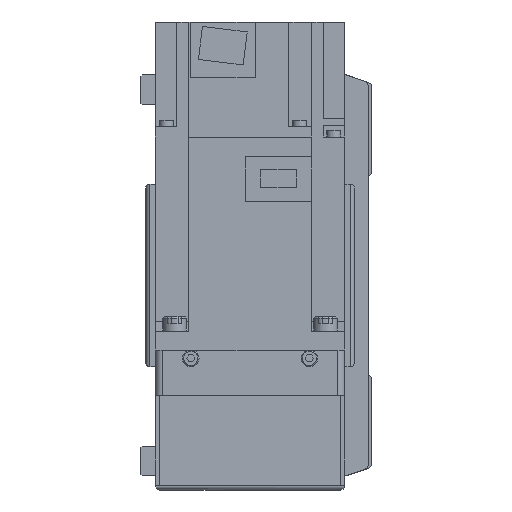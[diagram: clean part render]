
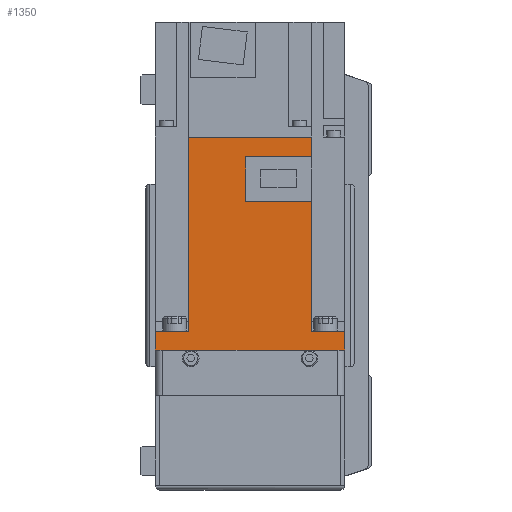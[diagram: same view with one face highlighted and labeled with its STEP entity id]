
A CAD part, left-side view. The second image highlights one B-rep face of the part: STEP entity #1350.
In plain terms, the highlighted planar face has unit normal (-1, 0, 0) as drawn and (1, 0, 0) by its records, which use the part's own axes.
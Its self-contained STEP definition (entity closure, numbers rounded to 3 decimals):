
#1350 = ADVANCED_FACE( '', ( #3489 ), #3490, .F. );
#3489 = FACE_OUTER_BOUND( '', #6673, .T. );
#3490 = PLANE( '', #6674 );
#6673 = EDGE_LOOP( '', ( #10469, #10470, #10471, #10472, #10473, #10474, #10475, #10476, #10477, #10478, #10479, #10480 ) );
#6674 = AXIS2_PLACEMENT_3D( '', #10481, #10482, #10483 );
#10469 = ORIENTED_EDGE( '', *, *, #18860, .F. );
#10470 = ORIENTED_EDGE( '', *, *, #18861, .F. );
#10471 = ORIENTED_EDGE( '', *, *, #18862, .F. );
#10472 = ORIENTED_EDGE( '', *, *, #18863, .T. );
#10473 = ORIENTED_EDGE( '', *, *, #18864, .F. );
#10474 = ORIENTED_EDGE( '', *, *, #18865, .T. );
#10475 = ORIENTED_EDGE( '', *, *, #18866, .T. );
#10476 = ORIENTED_EDGE( '', *, *, #18867, .F. );
#10477 = ORIENTED_EDGE( '', *, *, #18868, .F. );
#10478 = ORIENTED_EDGE( '', *, *, #18869, .F. );
#10479 = ORIENTED_EDGE( '', *, *, #18870, .F. );
#10480 = ORIENTED_EDGE( '', *, *, #18871, .F. );
#10481 = CARTESIAN_POINT( '', ( 40., 89.8, 40. ) );
#10482 = DIRECTION( '', ( -1., 0., 0. ) );
#10483 = DIRECTION( '', ( 0., 0., 1. ) );
#18860 = EDGE_CURVE( '', #22739, #22740, #22741, .T. );
#18861 = EDGE_CURVE( '', #22742, #22739, #22743, .T. );
#18862 = EDGE_CURVE( '', #22744, #22742, #22745, .T. );
#18863 = EDGE_CURVE( '', #22744, #22746, #22747, .T. );
#18864 = EDGE_CURVE( '', #22748, #22746, #22749, .T. );
#18865 = EDGE_CURVE( '', #22748, #22750, #22751, .T. );
#18866 = EDGE_CURVE( '', #22750, #22752, #22753, .T. );
#18867 = EDGE_CURVE( '', #22754, #22752, #22755, .T. );
#18868 = EDGE_CURVE( '', #22756, #22754, #22757, .T. );
#18869 = EDGE_CURVE( '', #22758, #22756, #22759, .T. );
#18870 = EDGE_CURVE( '', #22760, #22758, #22761, .T. );
#18871 = EDGE_CURVE( '', #22740, #22760, #22762, .T. );
#22739 = VERTEX_POINT( '', #28250 );
#22740 = VERTEX_POINT( '', #28251 );
#22741 = LINE( '', #28252, #28253 );
#22742 = VERTEX_POINT( '', #28254 );
#22743 = LINE( '', #28255, #28256 );
#22744 = VERTEX_POINT( '', #28257 );
#22745 = LINE( '', #28258, #28259 );
#22746 = VERTEX_POINT( '', #28260 );
#22747 = LINE( '', #28261, #28262 );
#22748 = VERTEX_POINT( '', #28263 );
#22749 = LINE( '', #28264, #28265 );
#22750 = VERTEX_POINT( '', #28266 );
#22751 = LINE( '', #28267, #28268 );
#22752 = VERTEX_POINT( '', #28269 );
#22753 = LINE( '', #28270, #28271 );
#22754 = VERTEX_POINT( '', #28272 );
#22755 = LINE( '', #28273, #28274 );
#22756 = VERTEX_POINT( '', #28275 );
#22757 = LINE( '', #28276, #28277 );
#22758 = VERTEX_POINT( '', #28278 );
#22759 = LINE( '', #28279, #28280 );
#22760 = VERTEX_POINT( '', #28281 );
#22761 = LINE( '', #28282, #28283 );
#22762 = LINE( '', #28284, #28285 );
#28250 = CARTESIAN_POINT( '', ( 40., 81.4, -25.95 ) );
#28251 = CARTESIAN_POINT( '', ( 40., 81.4, 1.8 ) );
#28252 = CARTESIAN_POINT( '', ( 40., 81.4, -26. ) );
#28253 = VECTOR( '', #34808, 1000. );
#28254 = CARTESIAN_POINT( '', ( 40., 89.8, -25.95 ) );
#28255 = CARTESIAN_POINT( '', ( 40., 158., -25.95 ) );
#28256 = VECTOR( '', #34809, 1000. );
#28257 = CARTESIAN_POINT( '', ( 40., 89.8, 25.95 ) );
#28258 = CARTESIAN_POINT( '', ( 40., 89.8, 40. ) );
#28259 = VECTOR( '', #34810, 1000. );
#28260 = CARTESIAN_POINT( '', ( 40., 8., 25.95 ) );
#28261 = CARTESIAN_POINT( '', ( 40., 158., 25.95 ) );
#28262 = VECTOR( '', #34811, 1000. );
#28263 = CARTESIAN_POINT( '', ( 40., 8., 40. ) );
#28264 = CARTESIAN_POINT( '', ( 40., 8., 40. ) );
#28265 = VECTOR( '', #34812, 1000. );
#28266 = CARTESIAN_POINT( '', ( 40., 0., 40. ) );
#28267 = CARTESIAN_POINT( '', ( 40., 89.8, 40. ) );
#28268 = VECTOR( '', #34813, 1000. );
#28269 = CARTESIAN_POINT( '', ( 40., 0., -40. ) );
#28270 = CARTESIAN_POINT( '', ( 40., 0., 40. ) );
#28271 = VECTOR( '', #34814, 1000. );
#28272 = CARTESIAN_POINT( '', ( 40., 8., -40. ) );
#28273 = CARTESIAN_POINT( '', ( 40., 89.8, -40. ) );
#28274 = VECTOR( '', #34815, 1000. );
#28275 = CARTESIAN_POINT( '', ( 40., 8., -25.95 ) );
#28276 = CARTESIAN_POINT( '', ( 40., 8., 40. ) );
#28277 = VECTOR( '', #34816, 1000. );
#28278 = CARTESIAN_POINT( '', ( 40., 62.8, -25.95 ) );
#28279 = CARTESIAN_POINT( '', ( 40., 158., -25.95 ) );
#28280 = VECTOR( '', #34817, 1000. );
#28281 = CARTESIAN_POINT( '', ( 40., 62.8, 1.8 ) );
#28282 = CARTESIAN_POINT( '', ( 40., 62.8, 1.8 ) );
#28283 = VECTOR( '', #34818, 1000. );
#28284 = CARTESIAN_POINT( '', ( 40., 81.4, 1.8 ) );
#28285 = VECTOR( '', #34819, 1000. );
#34808 = DIRECTION( '', ( 0., 0., 1. ) );
#34809 = DIRECTION( '', ( 0., -1., 0. ) );
#34810 = DIRECTION( '', ( 0., 0., -1. ) );
#34811 = DIRECTION( '', ( 0., -1., 0. ) );
#34812 = DIRECTION( '', ( 0., 0., -1. ) );
#34813 = DIRECTION( '', ( 0., -1., 0. ) );
#34814 = DIRECTION( '', ( 0., 0., -1. ) );
#34815 = DIRECTION( '', ( 0., -1., 0. ) );
#34816 = DIRECTION( '', ( 0., 0., -1. ) );
#34817 = DIRECTION( '', ( 0., -1., 0. ) );
#34818 = DIRECTION( '', ( 0., 0., -1. ) );
#34819 = DIRECTION( '', ( 0., -1., 0. ) );
